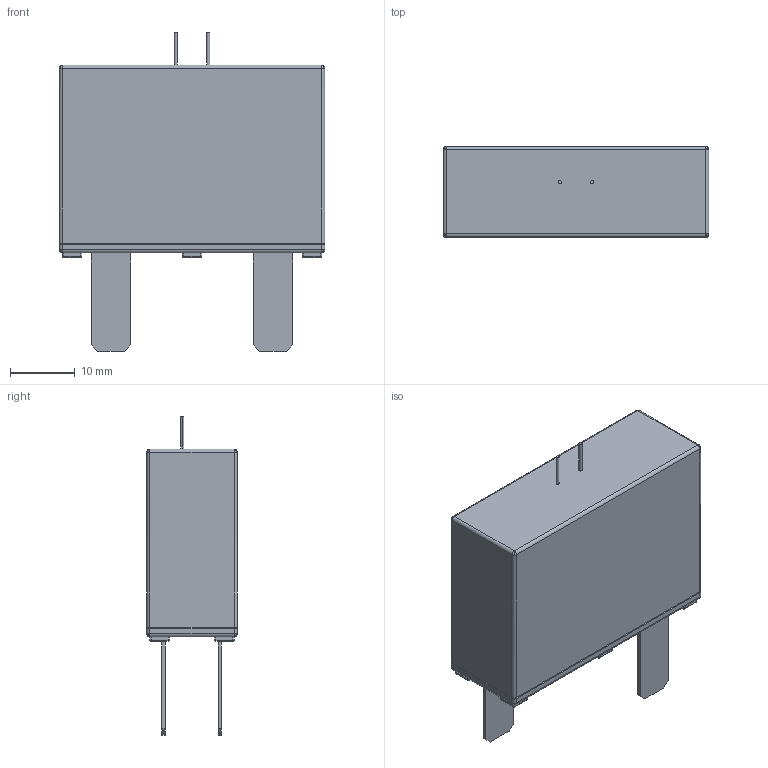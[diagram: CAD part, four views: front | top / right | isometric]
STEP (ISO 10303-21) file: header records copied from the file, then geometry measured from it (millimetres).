
FILE_DESCRIPTION (( 'STEP AP203' ), '1' );
FILE_NAME ('4CA_TFMOV20K221-IT-4-001.STEP', '2020-08-07T08:00:47', ( '' ), ( '' ), 'SwSTEP 2.0', 'SolidWorks 2016', '' );
FILE_SCHEMA (( 'CONFIG_CONTROL_DESIGN' ));
Length unit declared in the file: millimetre
Products named in the file (1): 4CA_TFMOV20K221-IT-4-001
Bounding box: 41 x 14 x 49.2 mm (x, y, z)
Volume: 16655.6 mm3; surface area: 5551.2 mm2
Topology: 1 solids, 6 shells, 479 faces, 1246 edges, 760 vertices
Faces by surface type: plane 311, cylinder 116, bspline 51, torus 1
Entity records: 14813 total; most frequent: CARTESIAN_POINT 3377, ORIENTED_EDGE 2412, DIRECTION 2267, EDGE_CURVE 1206, LINE 931, VECTOR 931, VERTEX_POINT 760, AXIS2_PLACEMENT_3D 668
